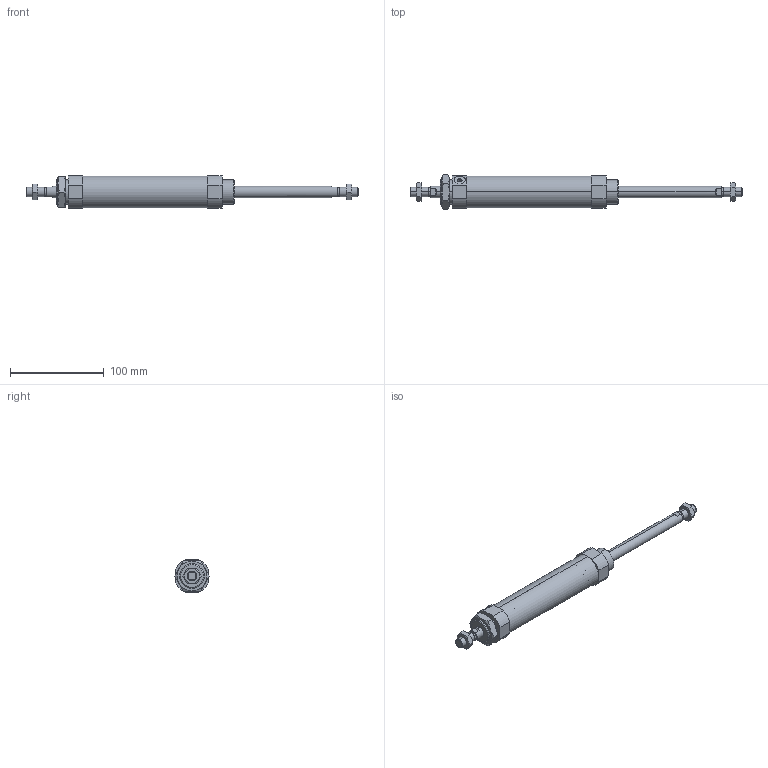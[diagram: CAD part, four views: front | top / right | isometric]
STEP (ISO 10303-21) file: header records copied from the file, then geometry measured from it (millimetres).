
FILE_DESCRIPTION (( 'STEP AP203' ), '1' );
FILE_NAME ('CSM2B32-100-P.STEP', '2020-07-20T16:46:35', ( '' ), ( '' ), 'SwSTEP 2.0', 'SolidWorks 2019', '' );
FILE_SCHEMA (( 'CONFIG_CONTROL_DESIGN' ));
Length unit declared in the file: millimetre
Products named in the file (1): CSM2B32-100-P
Bounding box: 354 x 36.95 x 34.5 mm (x, y, z)
Volume: 117260.7 mm3; surface area: 56412.7 mm2
Topology: 5 solids, 5 shells, 149 faces, 346 edges, 217 vertices
Faces by surface type: plane 57, cylinder 48, cone 44
Entity records: 5397 total; most frequent: CARTESIAN_POINT 1949, DIRECTION 714, ORIENTED_EDGE 680, EDGE_CURVE 340, AXIS2_PLACEMENT_3D 282, VERTEX_POINT 217, EDGE_LOOP 173, LINE 150
